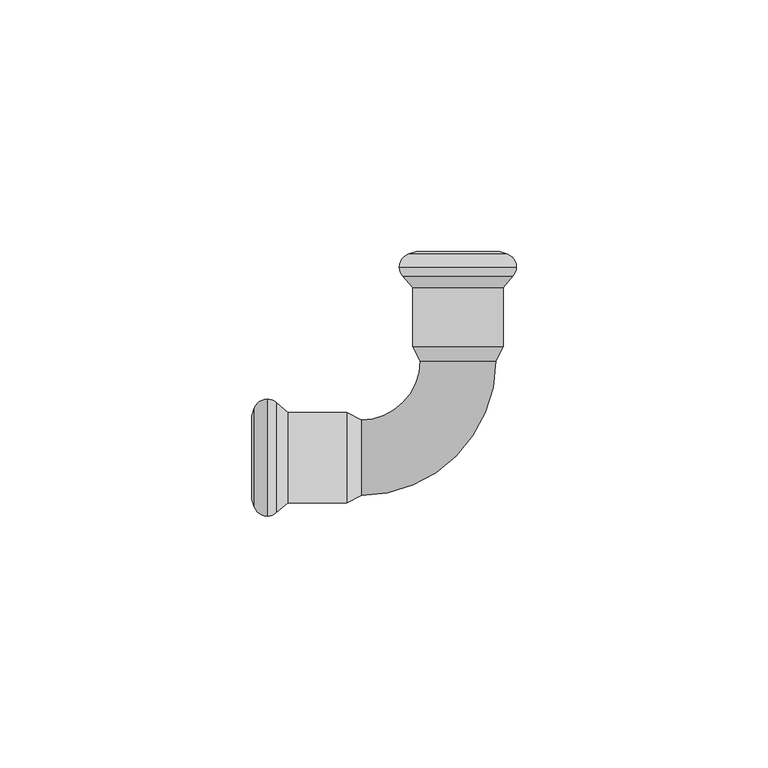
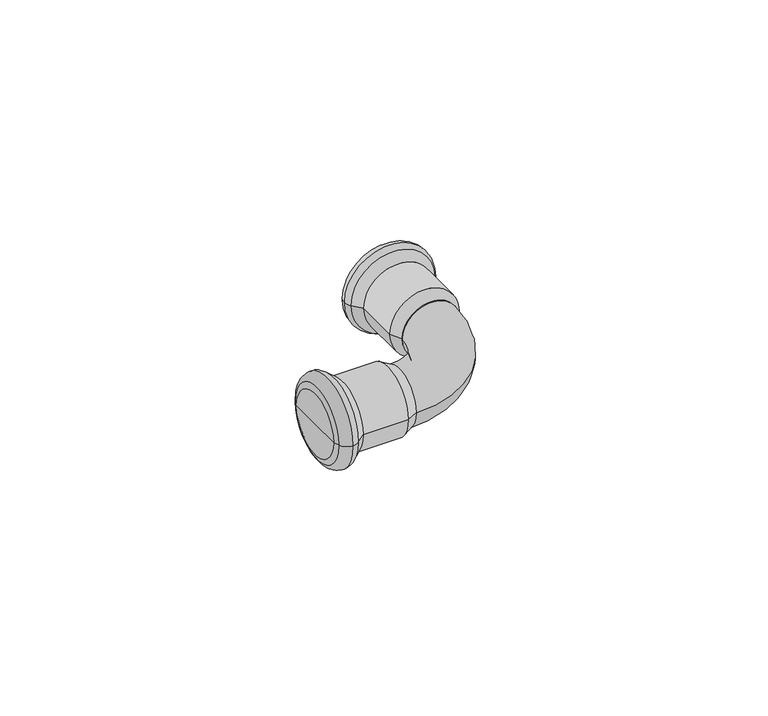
"""IFC4 building model written with IfcOpenShell, lengths in millimetres: pipe fitting geometry, KAN-therm Steel kolano 45,90 : KAN-therm Steel kolano 45,90."""

from ifc_helpers import new_model, si_unit, point, frame, origin, place, context, project, spatial, polyline, circle_curve, ellipse_curve, trimmed, source, transform, mapped, element, save
from ifc_brep_helpers import plane_surface, cylinder_surface, revolved_surface, advanced_brep


def pipe_fitting_ae6cc862(model_context):
    return source(origin(), model_context, "Body", "AdvancedBrep", [
        advanced_brep(
        [(-37.8921278, 11.625, 0.0), (-37.8921278, -11.625, 0.0), (-40.432052, -9.8484544, 0.0), (-40.432052, 9.8484544, 0.0), (-36.0922627, 10.9370225, 0.0), (-36.0922627, -10.9370225, 0.0), (-33.7838092, 9.0, 0.0), (-33.7838092, -9.0, 0.0), (-22.1180407, 9.0, 0.0), (-22.1180407, -9.0, 0.0), (-19.2, 7.5, 0.0), (-19.2, -7.5, 0.0), (-19.2, 0.0, 0.0), (-41.0, 8.2880302, 0.0), (-41.0, -8.2880302, 0.0), (-41.0, 0.0, 0.0)],
        [
            (0, 1, circle_curve(frame((-37.8921278, 0.0, 0.0), z_axis=(-1.0, 0.0, 0.0), x_axis=(0.0, -1.0, 0.0)), 11.625)),
            (1, 2, circle_curve(frame((-37.89488, -8.9249993, 0.0), z_axis=(0.0, 0.0, -1.0), x_axis=(0.0, 1.0, 0.0)), 2.7000021)),
            (2, 3, circle_curve(frame((-40.432052, 0.0, 0.0), z_axis=(1.0, 0.0, 0.0), x_axis=(0.0, -1.0, 0.0)), 9.8484544)),
            (3, 0, circle_curve(frame((-37.89488, 8.9249993, 0.0), z_axis=(0.0, 0.0, -1.0), x_axis=(0.0, -1.0, 0.0)), 2.7000021)),
            (1, 0, circle_curve(frame((-37.8921278, 0.0, 0.0), z_axis=(-1.0, 0.0, 0.0), x_axis=(0.0, -1.0, 0.0)), 11.625)),
            (3, 2, circle_curve(frame((-40.432052, 0.0, 0.0), z_axis=(1.0, 0.0, 0.0), x_axis=(0.0, -1.0, 0.0)), 9.8484544)),
            (4, 5, circle_curve(frame((-36.0922627, 0.0, 0.0), z_axis=(-1.0, 0.0, 0.0), x_axis=(0.0, -1.0, 0.0)), 10.9370225)),
            (5, 1, circle_curve(frame((-37.8935049, -8.9230333, 0.0), z_axis=(0.0, 0.0, -1.0), x_axis=(0.0, 1.0, 0.0)), 2.701967)),
            (0, 4, circle_curve(frame((-37.8935049, 8.9230333, 0.0), z_axis=(0.0, 0.0, -1.0), x_axis=(0.0, -1.0, 0.0)), 2.701967)),
            (5, 4, circle_curve(frame((-36.0922627, 0.0, 0.0), z_axis=(-1.0, 0.0, 0.0), x_axis=(0.0, -1.0, 0.0)), 10.9370225)),
            (6, 7, circle_curve(frame((-33.7838092, 0.0, 0.0), z_axis=(-1.0, 0.0, 0.0), x_axis=(0.0, -1.0, 0.0)), 9.0)),
            (7, 5),
            (4, 6),
            (7, 6, circle_curve(frame((-33.7838092, 0.0, 0.0), z_axis=(-1.0, 0.0, 0.0), x_axis=(0.0, -1.0, 0.0)), 9.0)),
            (8, 9, circle_curve(frame((-22.1180407, 0.0, 0.0), z_axis=(-1.0, 0.0, 0.0), x_axis=(0.0, -1.0, 0.0)), 9.0)),
            (9, 7),
            (6, 8),
            (9, 8, circle_curve(frame((-22.1180407, 0.0, 0.0), z_axis=(-1.0, 0.0, 0.0), x_axis=(0.0, -1.0, 0.0)), 9.0)),
            (10, 11, circle_curve(frame((-19.2, 0.0, 0.0), z_axis=(-1.0, 0.0, 0.0), x_axis=(0.0, -1.0, 0.0)), 7.5)),
            (11, 9),
            (8, 10),
            (11, 10, circle_curve(frame((-19.2, 0.0, 0.0), z_axis=(-1.0, 0.0, 0.0), x_axis=(0.0, -1.0, 0.0)), 7.5)),
            (12, 11),
            (10, 12),
            (13, 14, circle_curve(frame((-41.0, 0.0, 0.0), z_axis=(-1.0, 0.0, 0.0), x_axis=(0.0, -1.0, 0.0)), 8.2880302)),
            (14, 15),
            (15, 13),
            (14, 13, circle_curve(frame((-41.0, 0.0, 0.0), z_axis=(-1.0, 0.0, 0.0), x_axis=(0.0, -1.0, 0.0)), 8.2880302)),
            (2, 14),
            (13, 3),
        ],
        [
            revolved_surface(trimmed(ellipse_curve(frame((-37.89488, -8.9249993, 0.0), z_axis=(0.0, 0.0, 1.0), x_axis=(0.0, 1.0, 0.0)), 2.7000021, 2.7000021), [point((-40.432052, -9.8484544, 0.0))], [point((-37.8921278, -11.625, 0.0))], True, "CARTESIAN"), (-2000.0, 0.0, 0.0), (1.0, 0.0, 0.0)),
            revolved_surface(trimmed(ellipse_curve(frame((-37.8935049, -8.9230333, 0.0), z_axis=(0.0, 0.0, 1.0), x_axis=(0.0, 1.0, 0.0)), 2.701967, 2.701967), [point((-37.8921278, -11.625, 0.0))], [point((-36.0922627, -10.9370225, 0.0))], True, "CARTESIAN"), (-2000.0, 0.0, 0.0), (1.0, 0.0, 0.0)),
            revolved_surface(polyline([(-36.0922627, -10.9370225, 0.0), (-33.7838092, -9.0, 0.0)]), (-2000.0, 0.0, 0.0), (1.0, 0.0, 0.0)),
            cylinder_surface(frame((-2000.0, 0.0, 0.0), z_axis=(1.0, 0.0, 0.0), x_axis=(0.0, -1.0, 0.0)), 9.0),
            revolved_surface(polyline([(-22.1180407, -9.0, 0.0), (-19.2, -7.5, 0.0)]), (-2000.0, 0.0, 0.0), (1.0, 0.0, 0.0)),
            plane_surface(frame((-19.2, 0.0, 0.0), z_axis=(1.0, 0.0, 0.0), x_axis=(0.0, -1.0, 0.0))),
            plane_surface(frame((-41.0, 0.0, 0.0), z_axis=(-1.0, 0.0, 0.0), x_axis=(0.0, -1.0, 0.0))),
            revolved_surface(polyline([(-41.0, -8.2880302, 0.0), (-40.432052, -9.8484544, 0.0)]), (-2000.0, 0.0, 0.0), (1.0, 0.0, 0.0)),
        ],
        [
            (0, [[1, 2, 3, 4]]),
            (0, [[5, -4, 6, -2]]),
            (1, [[7, 8, -1, 9]]),
            (1, [[10, -9, -5, -8]]),
            (2, [[11, 12, -7, 13]]),
            (2, [[14, -13, -10, -12]]),
            (3, [[15, 16, -11, 17]]),
            (3, [[18, -17, -14, -16]]),
            (4, [[19, 20, -15, 21]]),
            (4, [[22, -21, -18, -20]]),
            (5, [[23, -19, 24]]),
            (5, [[-24, -22, -23]]),
            (6, [[25, 26, 27]]),
            (6, [[28, -27, -26]]),
            (7, [[-3, 29, -25, 30]]),
            (7, [[-6, -30, -28, -29]]),
        ],
    ),
        advanced_brep(
        [(11.625, 37.8921278, 0.0), (-11.625, 37.8921278, 0.0), (-9.8484544, 40.432052, 0.0), (9.8484544, 40.432052, 0.0), (10.9370225, 36.0922627, 0.0), (-10.9370225, 36.0922627, 0.0), (9.0, 33.7838092, 0.0), (-9.0, 33.7838092, 0.0), (9.0, 22.1180407, 0.0), (-9.0, 22.1180407, 0.0), (7.5, 19.2, 0.0), (-7.5, 19.2, 0.0), (0.0, 19.2, 0.0), (8.2880302, 41.0, 0.0), (-8.2880302, 41.0, 0.0), (0.0, 41.0, 0.0)],
        [
            (0, 1, circle_curve(frame((0.0, 37.8921278, 0.0), z_axis=(0.0, 1.0, 0.0), x_axis=(-1.0, 0.0, 0.0)), 11.625)),
            (1, 2, circle_curve(frame((-8.9249993, 37.89488, 0.0), z_axis=(0.0, 0.0, -1.0), x_axis=(1.0, 0.0, 0.0)), 2.7000021)),
            (2, 3, circle_curve(frame((0.0, 40.432052, 0.0), z_axis=(0.0, -1.0, 0.0), x_axis=(-1.0, 0.0, 0.0)), 9.8484544)),
            (3, 0, circle_curve(frame((8.9249993, 37.89488, 0.0), z_axis=(0.0, 0.0, -1.0), x_axis=(-1.0, 0.0, 0.0)), 2.7000021)),
            (1, 0, circle_curve(frame((0.0, 37.8921278, 0.0), z_axis=(0.0, 1.0, 0.0), x_axis=(-1.0, 0.0, 0.0)), 11.625)),
            (3, 2, circle_curve(frame((0.0, 40.432052, 0.0), z_axis=(0.0, -1.0, 0.0), x_axis=(-1.0, 0.0, 0.0)), 9.8484544)),
            (4, 5, circle_curve(frame((0.0, 36.0922627, 0.0), z_axis=(0.0, 1.0, 0.0), x_axis=(-1.0, 0.0, 0.0)), 10.9370225)),
            (5, 1, circle_curve(frame((-8.9230333, 37.8935049, 0.0), z_axis=(0.0, 0.0, -1.0), x_axis=(1.0, 0.0, 0.0)), 2.701967)),
            (0, 4, circle_curve(frame((8.9230333, 37.8935049, 0.0), z_axis=(0.0, 0.0, -1.0), x_axis=(-1.0, 0.0, 0.0)), 2.701967)),
            (5, 4, circle_curve(frame((0.0, 36.0922627, 0.0), z_axis=(0.0, 1.0, 0.0), x_axis=(-1.0, 0.0, 0.0)), 10.9370225)),
            (6, 7, circle_curve(frame((0.0, 33.7838092, 0.0), z_axis=(0.0, 1.0, 0.0), x_axis=(-1.0, 0.0, 0.0)), 9.0)),
            (7, 5),
            (4, 6),
            (7, 6, circle_curve(frame((0.0, 33.7838092, 0.0), z_axis=(0.0, 1.0, 0.0), x_axis=(-1.0, 0.0, 0.0)), 9.0)),
            (8, 9, circle_curve(frame((0.0, 22.1180407, 0.0), z_axis=(0.0, 1.0, 0.0), x_axis=(-1.0, 0.0, 0.0)), 9.0)),
            (9, 7),
            (6, 8),
            (9, 8, circle_curve(frame((0.0, 22.1180407, 0.0), z_axis=(0.0, 1.0, 0.0), x_axis=(-1.0, 0.0, 0.0)), 9.0)),
            (10, 11, circle_curve(frame((0.0, 19.2, 0.0), z_axis=(0.0, 1.0, 0.0), x_axis=(-1.0, 0.0, 0.0)), 7.5)),
            (11, 9),
            (8, 10),
            (11, 10, circle_curve(frame((0.0, 19.2, 0.0), z_axis=(0.0, 1.0, 0.0), x_axis=(-1.0, 0.0, 0.0)), 7.5)),
            (12, 11),
            (10, 12),
            (13, 14, circle_curve(frame((0.0, 41.0, 0.0), z_axis=(0.0, 1.0, 0.0), x_axis=(-1.0, 0.0, 0.0)), 8.2880302)),
            (14, 15),
            (15, 13),
            (14, 13, circle_curve(frame((0.0, 41.0, 0.0), z_axis=(0.0, 1.0, 0.0), x_axis=(-1.0, 0.0, 0.0)), 8.2880302)),
            (2, 14),
            (13, 3),
        ],
        [
            revolved_surface(trimmed(ellipse_curve(frame((-8.9249993, 37.89488, 0.0), z_axis=(0.0, 0.0, 1.0), x_axis=(1.0, 0.0, 0.0)), 2.7000021, 2.7000021), [point((-9.8484544, 40.432052, 0.0))], [point((-11.625, 37.8921278, 0.0))], True, "CARTESIAN"), (0.0, 2000.0, 0.0), (0.0, -1.0, 0.0)),
            revolved_surface(trimmed(ellipse_curve(frame((-8.9230333, 37.8935049, 0.0), z_axis=(0.0, 0.0, 1.0), x_axis=(1.0, 0.0, 0.0)), 2.701967, 2.701967), [point((-11.625, 37.8921278, 0.0))], [point((-10.9370225, 36.0922627, 0.0))], True, "CARTESIAN"), (0.0, 2000.0, 0.0), (0.0, -1.0, 0.0)),
            revolved_surface(polyline([(-10.9370225, 36.0922627, 0.0), (-9.0, 33.7838092, 0.0)]), (0.0, 2000.0, 0.0), (0.0, -1.0, 0.0)),
            cylinder_surface(frame((0.0, 2000.0, 0.0), z_axis=(0.0, -1.0, 0.0), x_axis=(-1.0, 0.0, 0.0)), 9.0),
            revolved_surface(polyline([(-9.0, 22.1180407, 0.0), (-7.5, 19.2, 0.0)]), (0.0, 2000.0, 0.0), (0.0, -1.0, 0.0)),
            plane_surface(frame((0.0, 19.2, 0.0), z_axis=(0.0, -1.0, 0.0), x_axis=(-1.0, 0.0, 0.0))),
            plane_surface(frame((0.0, 41.0, 0.0), z_axis=(0.0, 1.0, 0.0), x_axis=(-1.0, 0.0, 0.0))),
            revolved_surface(polyline([(-8.2880302, 41.0, 0.0), (-9.8484544, 40.432052, 0.0)]), (0.0, 2000.0, 0.0), (0.0, -1.0, 0.0)),
        ],
        [
            (0, [[1, 2, 3, 4]]),
            (0, [[5, -4, 6, -2]]),
            (1, [[7, 8, -1, 9]]),
            (1, [[10, -9, -5, -8]]),
            (2, [[11, 12, -7, 13]]),
            (2, [[14, -13, -10, -12]]),
            (3, [[15, 16, -11, 17]]),
            (3, [[18, -17, -14, -16]]),
            (4, [[19, 20, -15, 21]]),
            (4, [[22, -21, -18, -20]]),
            (5, [[23, -19, 24]]),
            (5, [[-24, -22, -23]]),
            (6, [[25, 26, 27]]),
            (6, [[28, -27, -26]]),
            (7, [[-3, 29, -25, 30]]),
            (7, [[-6, -30, -28, -29]]),
        ],
    ),
        advanced_brep(
        [(-19.2, -7.5, 0.0), (-19.2, 7.5, 0.0), (7.5, 19.2, 0.0), (-7.5, 19.2, 0.0)],
        [
            (0, 1, circle_curve(frame((-19.2, 0.0, 0.0), z_axis=(-1.0, 0.0, 0.0), x_axis=(0.0, 1.0, 0.0)), 7.5)),
            (1, 0, circle_curve(frame((-19.2, 0.0, 0.0), z_axis=(-1.0, 0.0, 0.0), x_axis=(0.0, 1.0, 0.0)), 7.5)),
            (2, 3, circle_curve(frame((0.0, 19.2, 0.0), z_axis=(0.0, 1.0, 0.0), x_axis=(-1.0, 0.0, 0.0)), 7.5)),
            (3, 2, circle_curve(frame((0.0, 19.2, 0.0), z_axis=(0.0, 1.0, 0.0), x_axis=(-1.0, 0.0, 0.0)), 7.5)),
            (3, 1, circle_curve(frame((-19.2, 19.2, 0.0), z_axis=(0.0, 0.0, -1.0), x_axis=(0.0, -1.0, 0.0)), 11.7)),
            (0, 2, circle_curve(frame((-19.2, 19.2, 0.0), z_axis=(0.0, 0.0, 1.0), x_axis=(0.0, -1.0, 0.0)), 26.7)),
        ],
        [
            plane_surface(frame((-19.2, 0.0, 0.0), z_axis=(-1.0, 0.0, 0.0), x_axis=(0.0, 0.0, 1.0))),
            plane_surface(frame((0.0, 19.2, 0.0), z_axis=(0.0, 1.0, 0.0), x_axis=(0.0, 0.0, 1.0))),
            revolved_surface(trimmed(ellipse_curve(frame((-19.2, 0.0, 0.0), z_axis=(-1.0, 0.0, 0.0), x_axis=(0.0, 1.0, 0.0)), 7.5, 7.5), [point((-19.2, -7.5, 0.0))], [point((-19.2, 7.5, 0.0))], True, "CARTESIAN"), (-19.2, 19.2, 0.0), (0.0, 0.0, 1.0)),
            revolved_surface(trimmed(ellipse_curve(frame((-19.2, 0.0, 0.0), z_axis=(-1.0, 0.0, 0.0), x_axis=(0.0, 1.0, 0.0)), 7.5, 7.5), [point((-19.2, 7.5, 0.0))], [point((-19.2, -7.5, 0.0))], True, "CARTESIAN"), (-19.2, 19.2, 0.0), (0.0, 0.0, 1.0)),
        ],
        [
            (0, [[1, 2]]),
            (1, [[3, 4]]),
            (2, [[5, -1, 6, -4]]),
            (3, [[-6, -2, -5, -3]]),
        ],
    ),
    ])


if __name__ == "__main__":
    model = new_model("IFC4")
    model_context = context("Model", 3, world=origin())
    ifc_project = project(units=[si_unit("LENGTHUNIT", "METRE", prefix="MILLI")], contexts=[model_context])
    site = spatial("IfcSite", under=ifc_project)
    building = spatial("IfcBuilding", under=site)
    placement = place(None, origin())
    pipe_fitting_shape = pipe_fitting_ae6cc862(model_context)
    element("IfcPipeFitting", 1, ObjectType="KAN-therm Steel kolano 45,90 : KAN-therm Steel kolano 45,90", at=placement, inside=building, context=model_context, shape_type="MappedRepresentation", body=[
        mapped(pipe_fitting_shape, transform((0.0, 0.0, 0.0), x_axis=(1.0, 0.0, 0.0), y_axis=(0.0, 1.0, 0.0), z_axis=(0.0, 0.0, 1.0))),
    ])
    save(model, "model.ifc")
